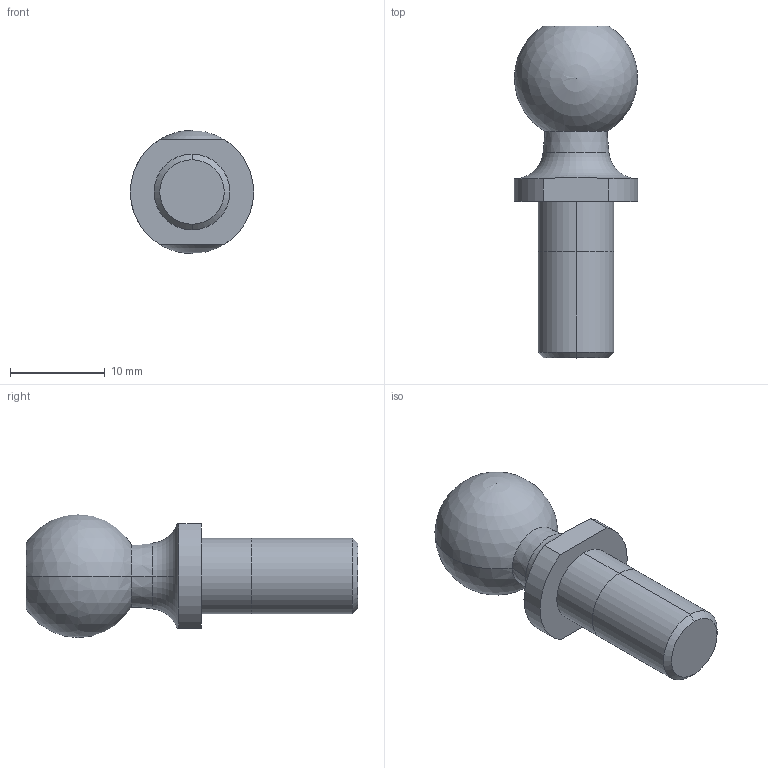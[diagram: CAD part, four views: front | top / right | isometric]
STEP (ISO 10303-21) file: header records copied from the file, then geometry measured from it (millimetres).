
FILE_DESCRIPTION (( 'STEP AP203' ), '1' );
FILE_NAME ('65550.W0008.step', '2014-02-03T10:40:53', ( 'User' ), ( '' ), 'SwSTEP 2.0', 'SolidWorks 2009', '' );
FILE_SCHEMA (( 'CONFIG_CONTROL_DESIGN' ));
Length unit declared in the file: millimetre
Products named in the file (1): 65550.W0008
Bounding box: 13 x 35 x 13 mm (x, y, z)
Volume: 2471.6 mm3; surface area: 1286.6 mm2
Topology: 1 solids, 1 shells, 20 faces, 47 edges, 29 vertices
Faces by surface type: cylinder 6, plane 6, cone 4, sphere 2, torus 2
Entity records: 635 total; most frequent: DIRECTION 108, CARTESIAN_POINT 107, ORIENTED_EDGE 84, AXIS2_PLACEMENT_3D 47, EDGE_CURVE 42, VERTEX_POINT 26, CIRCLE 26, EDGE_LOOP 22
